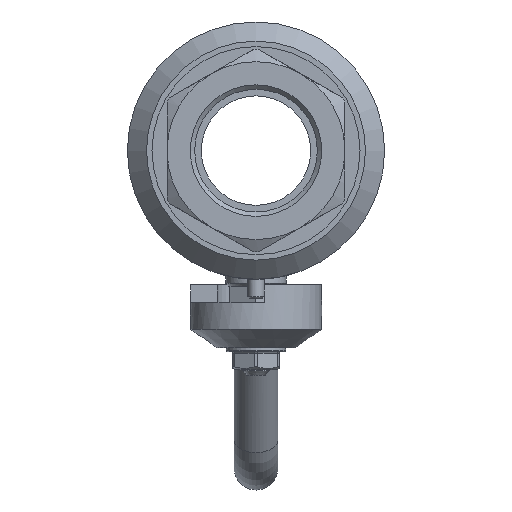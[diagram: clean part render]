
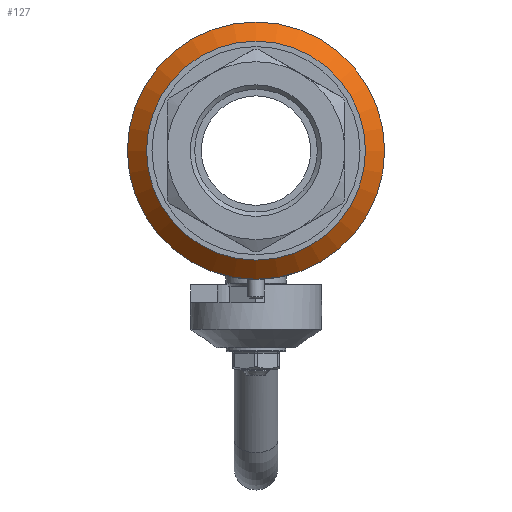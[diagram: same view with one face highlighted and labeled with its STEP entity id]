
A CAD part, left-side view. The second image highlights one B-rep face of the part: STEP entity #127.
In plain terms, the highlighted conical face has half-angle 45 degrees and reference radius 43.5 mm.
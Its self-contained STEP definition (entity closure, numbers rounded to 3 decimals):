
#127=ADVANCED_FACE('',(#1084),#1086,.T.);
#1084=FACE_OUTER_BOUND('',#1085,.T.);
#1085=EDGE_LOOP('',(#2218,#2219,#2220,#2221));
#1086=CONICAL_SURFACE('',#1087,43.5,0.785);
#1087=AXIS2_PLACEMENT_3D('',#1088,#1089,#1090);
#1088=CARTESIAN_POINT('',(-31.5,0.,0.));
#1089=DIRECTION('',(1.,0.,0.));
#1090=DIRECTION('',(0.,1.,0.));
#2218=ORIENTED_EDGE('',*,*,#3406,.T.);
#2219=ORIENTED_EDGE('',*,*,#3371,.T.);
#2220=ORIENTED_EDGE('',*,*,#3406,.F.);
#2221=ORIENTED_EDGE('',*,*,#3407,.F.);
#3371=EDGE_CURVE('',#3720,#3720,#3722,.T.);
#3406=EDGE_CURVE('',#3778,#3720,#3779,.T.);
#3407=EDGE_CURVE('',#3778,#3778,#3780,.T.);
#3720=VERTEX_POINT('',#4523);
#3722=CIRCLE('',#4527,47.);
#3778=VERTEX_POINT('',#4933);
#3779=LINE('',#4934,#4935);
#3780=CIRCLE('',#4937,40.);
#4523=CARTESIAN_POINT('',(-28.,-47.,0.));
#4527=AXIS2_PLACEMENT_3D('',#4528,#4529,#4530);
#4528=CARTESIAN_POINT('',(-28.,0.,0.));
#4529=DIRECTION('',(-1.,0.,0.));
#4530=DIRECTION('',(0.,-1.,0.));
#4933=CARTESIAN_POINT('',(-35.,-40.,0.));
#4934=CARTESIAN_POINT('',(-35.,-40.,0.));
#4935=VECTOR('',#4936,1.);
#4936=DIRECTION('',(0.707,-0.707,0.));
#4937=AXIS2_PLACEMENT_3D('',#4938,#4939,#4940);
#4938=CARTESIAN_POINT('',(-35.,0.,0.));
#4939=DIRECTION('',(-1.,0.,0.));
#4940=DIRECTION('',(0.,-1.,0.));
